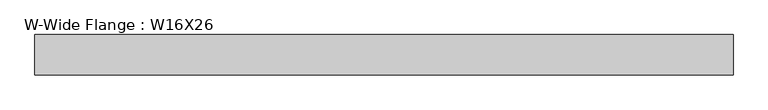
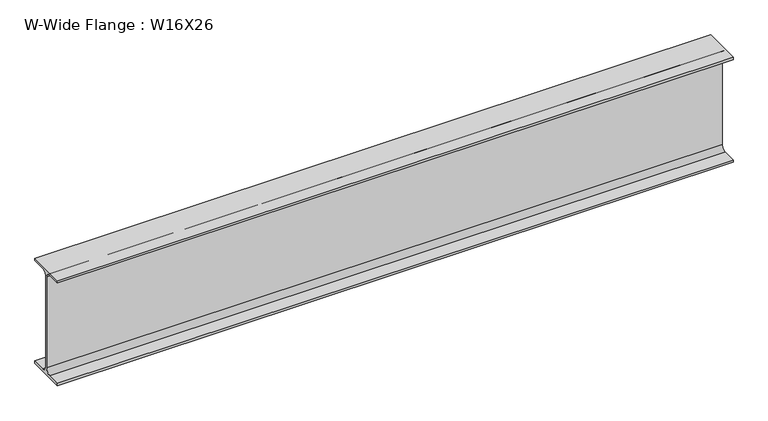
"""IFC4 building model written with IfcOpenShell, lengths in millimetres: beam geometry, W-Wide Flange : W16X26."""

from ifc_helpers import new_model, si_unit, point, frame, frame_2d, origin, place, context, project, spatial, polyline, circle_curve, trimmed, segment, composite_curve, outline, extrude, source, transform, mapped, element, save


def w_wide_flange_w16x26_37e6e801(model_context):
    return source(origin(), model_context, "Body", "SweptSolid", [
        extrude(outline(composite_curve([segment(polyline([(-69.85, -190.5496094), (-21.43125, -190.5496094)]), True, "CONTINUOUS"), segment(trimmed(circle_curve(frame_2d((-21.43125, -172.2933594)), 18.25625), [point((-21.43125, -190.5496094))], [point((-3.175, -172.2933594))], True, "CARTESIAN"), True, "CONTINUOUS"), segment(polyline([(-3.175, -172.2933594), (-3.175, 172.2933594)]), True, "CONTINUOUS"), segment(trimmed(circle_curve(frame_2d((-21.43125, 172.2933594)), 18.25625), [point((-3.175, 172.2933594))], [point((-21.43125, 190.5496094))], True, "CARTESIAN"), True, "CONTINUOUS"), segment(polyline([(-21.43125, 190.5496094), (-69.85, 190.5496094), (-69.85, 199.2808594), (69.85, 199.2808594), (69.85, 190.5496094), (21.43125, 190.5496094)]), True, "CONTINUOUS"), segment(trimmed(circle_curve(frame_2d((21.43125, 172.2933594)), 18.25625), [point((21.43125, 190.5496094))], [point((3.175, 172.2933594))], True, "CARTESIAN"), True, "CONTINUOUS"), segment(polyline([(3.175, 172.2933594), (3.175, -172.2933594)]), True, "CONTINUOUS"), segment(trimmed(circle_curve(frame_2d((21.43125, -172.2933594)), 18.25625), [point((3.175, -172.2933594))], [point((21.43125, -190.5496094))], True, "CARTESIAN"), True, "CONTINUOUS"), segment(polyline([(21.43125, -190.5496094), (69.85, -190.5496094), (69.85, -199.2808594), (-69.85, -199.2808594), (-69.85, -190.5496094)]), True, "CONTINUOUS")], self_intersect=False)), frame((-1079.5, 0.0, 0.0), z_axis=(1.0, 0.0, 0.0), x_axis=(0.0, 1.0, 0.0)), (0.0, 0.0, 1.0), 2423.5884709),
    ])


if __name__ == "__main__":
    model = new_model("IFC4")
    model_context = context("Model", 3, world=origin())
    ifc_project = project(units=[si_unit("LENGTHUNIT", "METRE", prefix="MILLI")], contexts=[model_context])
    site = spatial("IfcSite", under=ifc_project)
    building = spatial("IfcBuilding", under=site)
    placement = place(None, origin())
    w_wide_flange_w16x26_shape = w_wide_flange_w16x26_37e6e801(model_context)
    element("IfcBeam", 1, ObjectType="W-Wide Flange : W16X26", at=placement, inside=building, context=model_context, shape_type="MappedRepresentation", body=[
        mapped(w_wide_flange_w16x26_shape, transform((0.0, 0.0, 0.0), x_axis=(1.0, 0.0, 0.0), y_axis=(0.0, 1.0, 0.0), z_axis=(0.0, 0.0, 1.0))),
    ])
    save(model, "model.ifc")
